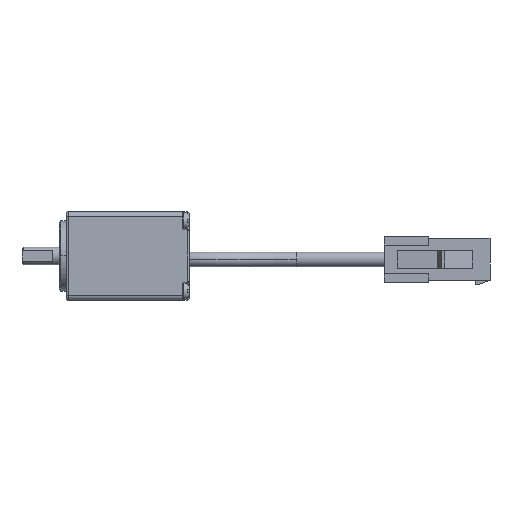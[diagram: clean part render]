
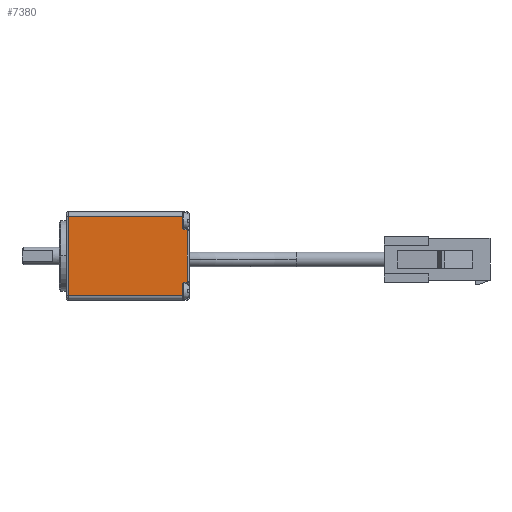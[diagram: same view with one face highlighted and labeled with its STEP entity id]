
A CAD part, front view. The second image highlights one B-rep face of the part: STEP entity #7380.
In plain terms, the highlighted planar face has unit normal (0, -1, 0).
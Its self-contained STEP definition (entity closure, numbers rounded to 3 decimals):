
#53 = CARTESIAN_POINT ( 'NONE',  ( 65.772, 2.132, 22.726 ) ) ;
#108 = VECTOR ( 'NONE', #5421, 1000. ) ;
#344 = ORIENTED_EDGE ( 'NONE', *, *, #7503, .T. ) ;
#401 = AXIS2_PLACEMENT_3D ( 'NONE', #7957, #3359, #8697 ) ;
#541 = VECTOR ( 'NONE', #7939, 1000. ) ;
#553 = VECTOR ( 'NONE', #1464, 1000. ) ;
#626 = VERTEX_POINT ( 'NONE', #6949 ) ;
#825 = FACE_OUTER_BOUND ( 'NONE', #8910, .T. ) ;
#875 = CARTESIAN_POINT ( 'NONE',  ( 68.272, 2.132, 22.726 ) ) ;
#908 = LINE ( 'NONE', #9471, #6801 ) ;
#1341 = DIRECTION ( 'NONE',  ( -1., 0., 0. ) ) ;
#1464 = DIRECTION ( 'NONE',  ( 0., 0., 1. ) ) ;
#1563 = ORIENTED_EDGE ( 'NONE', *, *, #1582, .T. ) ;
#1582 = EDGE_CURVE ( 'NONE', #2438, #3144, #3718, .T. ) ;
#1600 = ORIENTED_EDGE ( 'NONE', *, *, #3559, .F. ) ;
#1734 = ORIENTED_EDGE ( 'NONE', *, *, #3247, .F. ) ;
#1751 = CARTESIAN_POINT ( 'NONE',  ( 50.272, 2.132, 22.726 ) ) ;
#1804 = ORIENTED_EDGE ( 'NONE', *, *, #3425, .T. ) ;
#1858 = VECTOR ( 'NONE', #4995, 1000. ) ;
#1940 = CARTESIAN_POINT ( 'NONE',  ( 50.272, 2.132, 48.726 ) ) ;
#2034 = DIRECTION ( 'NONE',  ( 0., 0., -1. ) ) ;
#2069 = VERTEX_POINT ( 'NONE', #1751 ) ;
#2140 = LINE ( 'NONE', #6938, #108 ) ;
#2194 = VERTEX_POINT ( 'NONE', #6784 ) ;
#2211 = DIRECTION ( 'NONE',  ( 0., 0., -1. ) ) ;
#2438 = VERTEX_POINT ( 'NONE', #5567 ) ;
#2579 = LINE ( 'NONE', #3344, #541 ) ;
#2879 = ORIENTED_EDGE ( 'NONE', *, *, #3904, .T. ) ;
#3144 = VERTEX_POINT ( 'NONE', #7465 ) ;
#3247 = EDGE_CURVE ( 'NONE', #3917, #3144, #6680, .T. ) ;
#3314 = LINE ( 'NONE', #3620, #9168 ) ;
#3344 = CARTESIAN_POINT ( 'NONE',  ( 65.272, 2.132, 22.226 ) ) ;
#3359 = DIRECTION ( 'NONE',  ( 0., 1., 0. ) ) ;
#3425 = EDGE_CURVE ( 'NONE', #626, #6834, #3663, .T. ) ;
#3559 = EDGE_CURVE ( 'NONE', #7294, #6834, #908, .T. ) ;
#3620 = CARTESIAN_POINT ( 'NONE',  ( 68.272, 2.132, 48.726 ) ) ;
#3663 = CIRCLE ( 'NONE', #6260, 0.5 ) ;
#3718 = CIRCLE ( 'NONE', #401, 0.5 ) ;
#3768 = DIRECTION ( 'NONE',  ( 0., -1., 0. ) ) ;
#3820 = EDGE_CURVE ( 'NONE', #626, #7121, #2579, .T. ) ;
#3895 = LINE ( 'NONE', #5784, #1858 ) ;
#3904 = EDGE_CURVE ( 'NONE', #3917, #7121, #3895, .T. ) ;
#3917 = VERTEX_POINT ( 'NONE', #7316 ) ;
#4007 = CARTESIAN_POINT ( 'NONE',  ( 65.772, 2.132, 22.226 ) ) ;
#4041 = AXIS2_PLACEMENT_3D ( 'NONE', #8335, #3768, #9090 ) ;
#4492 = VECTOR ( 'NONE', #2034, 1000. ) ;
#4783 = DIRECTION ( 'NONE',  ( 1., 0., 0. ) ) ;
#4995 = DIRECTION ( 'NONE',  ( 1., 0., 0. ) ) ;
#5205 = CARTESIAN_POINT ( 'NONE',  ( 65.272, 2.132, 21.726 ) ) ;
#5421 = DIRECTION ( 'NONE',  ( 1., 0., 0. ) ) ;
#5567 = CARTESIAN_POINT ( 'NONE',  ( 52.772, 2.132, 22.726 ) ) ;
#5709 = DIRECTION ( 'NONE',  ( -1., 0., 0. ) ) ;
#5784 = CARTESIAN_POINT ( 'NONE',  ( 68.272, 2.132, 21.726 ) ) ;
#6026 = PLANE ( 'NONE',  #4041 ) ;
#6260 = AXIS2_PLACEMENT_3D ( 'NONE', #4007, #9337, #4783 ) ;
#6339 = LINE ( 'NONE', #6821, #7071 ) ;
#6382 = ORIENTED_EDGE ( 'NONE', *, *, #3820, .F. ) ;
#6556 = LINE ( 'NONE', #7400, #4492 ) ;
#6680 = LINE ( 'NONE', #7605, #553 ) ;
#6716 = ORIENTED_EDGE ( 'NONE', *, *, #7880, .T. ) ;
#6784 = CARTESIAN_POINT ( 'NONE',  ( 68.272, 2.132, 48.726 ) ) ;
#6801 = VECTOR ( 'NONE', #5709, 1000. ) ;
#6821 = CARTESIAN_POINT ( 'NONE',  ( 50.272, 2.132, 49.726 ) ) ;
#6834 = VERTEX_POINT ( 'NONE', #53 ) ;
#6938 = CARTESIAN_POINT ( 'NONE',  ( 68.272, 2.132, 22.726 ) ) ;
#6949 = CARTESIAN_POINT ( 'NONE',  ( 65.272, 2.132, 22.226 ) ) ;
#7071 = VECTOR ( 'NONE', #2211, 1000. ) ;
#7121 = VERTEX_POINT ( 'NONE', #5205 ) ;
#7184 = EDGE_CURVE ( 'NONE', #8589, #2069, #6339, .T. ) ;
#7294 = VERTEX_POINT ( 'NONE', #875 ) ;
#7316 = CARTESIAN_POINT ( 'NONE',  ( 53.272, 2.132, 21.726 ) ) ;
#7380 = ADVANCED_FACE ( 'NONE', ( #825 ), #6026, .T. ) ;
#7400 = CARTESIAN_POINT ( 'NONE',  ( 68.272, 2.132, 22.726 ) ) ;
#7465 = CARTESIAN_POINT ( 'NONE',  ( 53.272, 2.132, 22.226 ) ) ;
#7503 = EDGE_CURVE ( 'NONE', #2069, #2438, #2140, .T. ) ;
#7605 = CARTESIAN_POINT ( 'NONE',  ( 53.272, 2.132, 22.226 ) ) ;
#7880 = EDGE_CURVE ( 'NONE', #2194, #8589, #3314, .T. ) ;
#7939 = DIRECTION ( 'NONE',  ( 0., 0., -1. ) ) ;
#7957 = CARTESIAN_POINT ( 'NONE',  ( 52.772, 2.132, 22.226 ) ) ;
#8124 = ORIENTED_EDGE ( 'NONE', *, *, #9250, .F. ) ;
#8335 = CARTESIAN_POINT ( 'NONE',  ( 68.272, 2.132, 49.726 ) ) ;
#8589 = VERTEX_POINT ( 'NONE', #1940 ) ;
#8697 = DIRECTION ( 'NONE',  ( -1., 0., 0. ) ) ;
#8910 = EDGE_LOOP ( 'NONE', ( #8124, #6716, #9162, #344, #1563, #1734, #2879, #6382, #1804, #1600 ) ) ;
#9090 = DIRECTION ( 'NONE',  ( 0., 0., -1. ) ) ;
#9162 = ORIENTED_EDGE ( 'NONE', *, *, #7184, .T. ) ;
#9168 = VECTOR ( 'NONE', #1341, 1000. ) ;
#9250 = EDGE_CURVE ( 'NONE', #2194, #7294, #6556, .T. ) ;
#9337 = DIRECTION ( 'NONE',  ( 0., 1., 0. ) ) ;
#9471 = CARTESIAN_POINT ( 'NONE',  ( 65.772, 2.132, 22.726 ) ) ;
